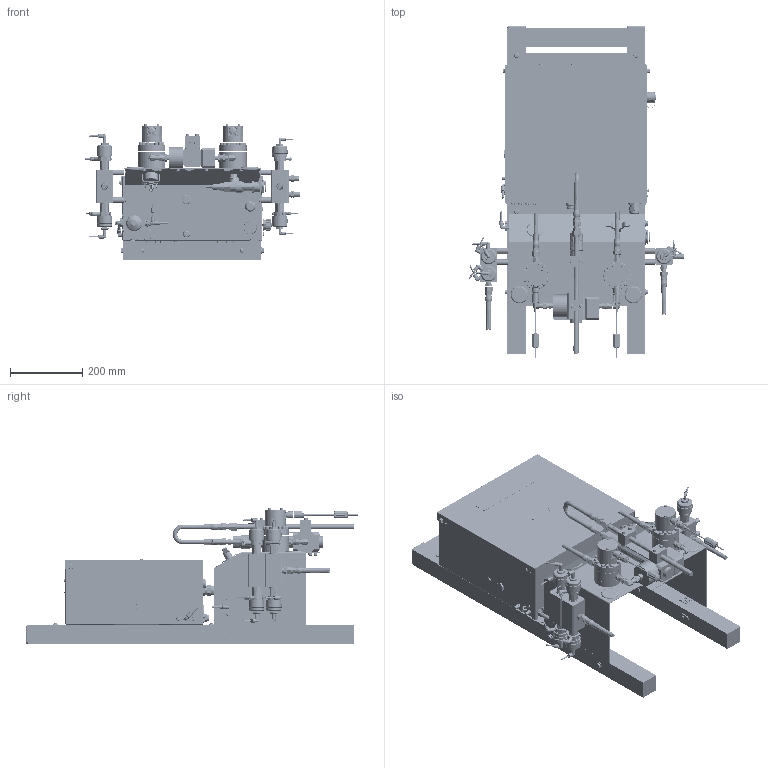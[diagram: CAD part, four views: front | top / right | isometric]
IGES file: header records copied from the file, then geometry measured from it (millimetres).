
Start section:  PTC IGES file: 24z013-en-g.igs
Global section: file name: 24z013-en-g.igs; native system: Creo Parametric by PTC Inc.; preprocessor: 2019030; author: qusrh3; organization: Unknown; date: 20200305.073131; units: inch
Bounding box: 595.4 x 919.26 x 375.35 mm (x, y, z)
Surface area: 3415329 mm2 (no closed solid volume)
Topology: 0 solids, 0 shells, 6780 faces, 34004 edges, 33982 vertices
Faces by surface type: revolution 3402, bspline 3357, extrusion 21
